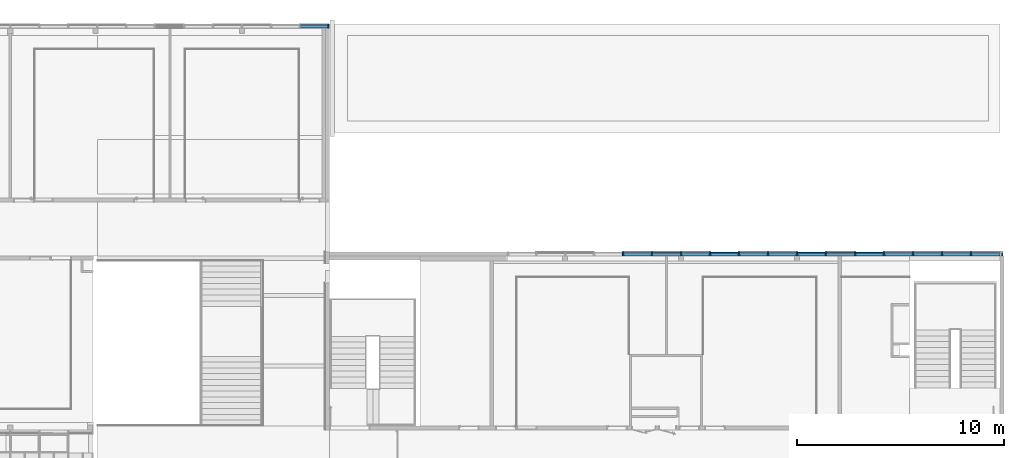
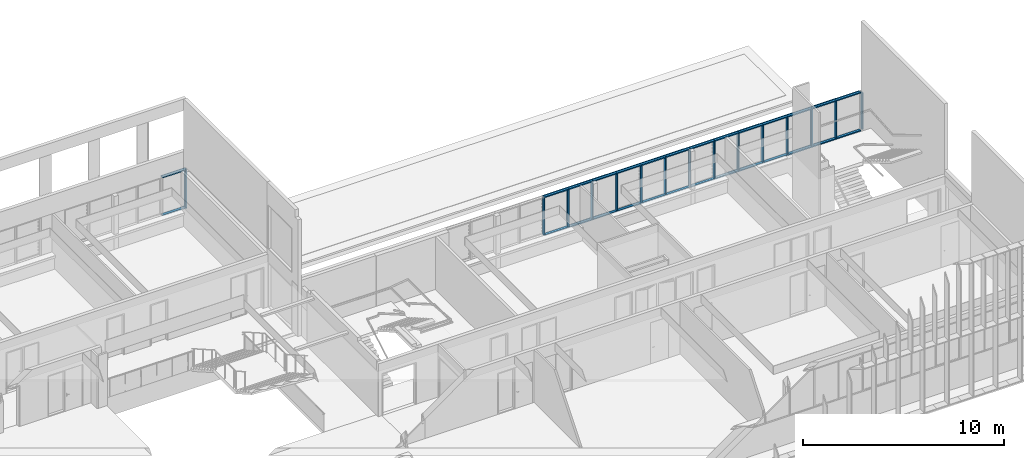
# One storey, part 18 of 106: 43 members, 2 elements without a shape of their own.
"""IFC2X3 building model written with IfcOpenShell, lengths in centimetres."""

from ifc_helpers import new_model, entity, si_unit, converted_unit, derived_unit, direction, frame, origin, place, context, subcontext, project, spatial, polyline, outline, extrude, source, transform, mapped, material, type_object, type_shapes, element, aggregate, save


model = new_model("IFC2X3")

# Units and contexts
model_context = context("Model", 3, precision=0.001, world=origin(), true_north=direction((6.12303176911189e-17, 1.0)))
body_context = subcontext(model_context, "Body", "Model", "MODEL_VIEW")
ifc_project = project(units=[si_unit("LENGTHUNIT", "METRE", prefix="CENTI"), si_unit("AREAUNIT", "SQUARE_METRE"), si_unit("VOLUMEUNIT", "CUBIC_METRE"), converted_unit("PLANEANGLEUNIT", "DEGREE", entity("IfcRatioMeasure", 0.0174532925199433), si_unit("PLANEANGLEUNIT", "RADIAN"), dimensions=[0, 0, 0, 0, 0, 0, 0]), si_unit("MASSUNIT", "GRAM", prefix="KILO"), derived_unit("MASSDENSITYUNIT", [(si_unit("MASSUNIT", "GRAM", prefix="KILO"), 1), (si_unit("LENGTHUNIT", "METRE"), -3)]), si_unit("TIMEUNIT", "SECOND"), si_unit("FREQUENCYUNIT", "HERTZ"), si_unit("THERMODYNAMICTEMPERATUREUNIT", "DEGREE_CELSIUS"), derived_unit("THERMALTRANSMITTANCEUNIT", [(si_unit("MASSUNIT", "GRAM", prefix="KILO"), 1), (si_unit("THERMODYNAMICTEMPERATUREUNIT", "KELVIN"), -1), (si_unit("TIMEUNIT", "SECOND"), -3)]), derived_unit("VOLUMETRICFLOWRATEUNIT", [(si_unit("LENGTHUNIT", "METRE"), 3), (si_unit("TIMEUNIT", "SECOND"), -1)]), si_unit("ELECTRICCURRENTUNIT", "AMPERE"), si_unit("ELECTRICVOLTAGEUNIT", "VOLT"), si_unit("POWERUNIT", "WATT"), si_unit("FORCEUNIT", "NEWTON", prefix="KILO"), si_unit("ILLUMINANCEUNIT", "LUX"), si_unit("LUMINOUSFLUXUNIT", "LUMEN"), si_unit("LUMINOUSINTENSITYUNIT", "CANDELA"), derived_unit("USERDEFINED", [(si_unit("MASSUNIT", "GRAM", prefix="KILO"), -1), (si_unit("LENGTHUNIT", "METRE"), -2), (si_unit("TIMEUNIT", "SECOND"), 3), (si_unit("LUMINOUSFLUXUNIT", "LUMEN"), 1)]), derived_unit("LINEARVELOCITYUNIT", [(si_unit("LENGTHUNIT", "METRE"), 1), (si_unit("TIMEUNIT", "SECOND"), -1)]), si_unit("PRESSUREUNIT", "PASCAL"), derived_unit("USERDEFINED", [(si_unit("LENGTHUNIT", "METRE"), -2), (si_unit("MASSUNIT", "GRAM", prefix="KILO"), 1), (si_unit("TIMEUNIT", "SECOND"), -2)])], contexts=[model_context])

# Site, building, storey
site_placement = place(None, frame((-2781.94577612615, 7442.24238424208, 0.0)))
site = spatial("IfcSite", under=ifc_project, at=site_placement, Name="Default", CompositionType="ELEMENT")
building_placement = place(site_placement, origin())
building = spatial("IfcBuilding", under=site, at=building_placement, CompositionType="ELEMENT")
storey_placement = place(building_placement, frame((0.0, 0.0, 422.0)))
storey = spatial("IfcBuildingStorey", under=building, at=storey_placement, Name="Toiture - Cuisine", CompositionType="ELEMENT", Elevation=421.999999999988)

# Curtain wall, members
curtain_wall_type = type_object("IfcCurtainWallType", Name="Mur-rideau:07 - mur rideau trame 140 cm", PredefinedType="NOTDEFINED")
curtain_wall_1_placement = place(building_placement, origin())
curtain_wall_1 = element("IfcCurtainWall", 1, at=curtain_wall_1_placement, inside=storey, type_object=curtain_wall_type, Name="Mur-rideau:07 - mur rideau trame 140 cm", ObjectType="Mur-rideau:07 - mur rideau trame 140 cm")
ifc_material = material(Name="Aluminium")
member_type_1 = type_object("IfcMemberType", Name="150 x 25mm Détails", PredefinedType="MEMBER")
shared_shape_1 = source(origin(), body_context, "Body", "SweptSolid", [
    extrude(outline(polyline([(-5.6666666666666, -3.24999999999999), (-3.66666666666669, -3.24999999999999), (-3.66666666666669, -0.868749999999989), (-0.166666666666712, -0.868749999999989), (-0.166666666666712, -3.25000000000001), (13.3333333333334, -3.25000000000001), (13.3333333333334, 3.24999999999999), (-0.16666666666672, 3.24999999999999), (-0.16666666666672, 0.868749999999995), (-3.66666666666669, 0.868749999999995), (-3.66666666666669, 3.25), (-5.6666666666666, 3.25), (-5.6666666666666, -3.24999999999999)])), frame((-3.24999999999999, -1.96666666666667, -140.0), z_axis=(0.0, 0.0, 1.0), x_axis=(0.0, -1.0, 0.0)), (0.0, 0.0, 1.0), 140.000000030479),
])
type_shapes(member_type_1, [shared_shape_1])
member_1_placement = place(building_placement, frame((-3789.50004159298, 26.0, 743.0), z_axis=(-1.0, 0.0, 0.0), x_axis=(0.0, 0.0, 1.0)))
member_1 = element("IfcMember", 2, at=member_1_placement, type_object=member_type_1, material=ifc_material, Name="Meneau rectangulaire:150 x 25mm Détails", ObjectType="Meneau rectangulaire:150 x 25mm Détails", context=body_context, shape_type="MappedRepresentation", body=[
    mapped(shared_shape_1, transform((0.0, 0.0, 0.0), scale=1.0)),
])
member_type_2 = type_object("IfcMemberType", Name="150 x 25mm Détails", PredefinedType="MEMBER")
shared_shape_2 = source(origin(), body_context, "Body", "SweptSolid", [
    extrude(outline(polyline([(-5.66666666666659, -3.25), (-3.66666666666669, -3.25), (-3.66666666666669, -0.868749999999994), (-0.166666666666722, -0.868749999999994), (-0.166666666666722, -3.25000000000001), (13.3333333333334, -3.24999999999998), (13.3333333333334, 3.25000000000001), (-0.166666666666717, 3.25000000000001), (-0.166666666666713, 0.868749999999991), (-3.66666666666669, 0.868749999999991), (-3.66666666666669, 3.24999999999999), (-5.66666666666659, 3.24999999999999), (-5.66666666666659, -3.25)])), frame((-3.24999999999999, -1.96666666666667, -140.0), z_axis=(0.0, 0.0, 1.0), x_axis=(0.0, -1.0, 0.0)), (0.0, 0.0, 1.0), 140.000000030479),
])
type_shapes(member_type_2, [shared_shape_2])
member_2_placement = place(building_placement, frame((-3649.5000415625, 26.0, 505.5), z_axis=(1.0, 0.0, 0.0), x_axis=(0.0, 0.0, -1.0)))
member_2 = element("IfcMember", 3, at=member_2_placement, type_object=member_type_2, material=ifc_material, Name="Meneau rectangulaire:150 x 25mm Détails", ObjectType="Meneau rectangulaire:150 x 25mm Détails", context=body_context, shape_type="MappedRepresentation", body=[
    mapped(shared_shape_2, transform((0.0, 0.0, 0.0), scale=1.0)),
])
member_type_3 = type_object("IfcMemberType", Name="150 x 25mm Détails", PredefinedType="MEMBER")
shared_shape_3 = source(origin(), body_context, "Body", "SweptSolid", [
    extrude(outline(polyline([(-5.6666666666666, -3.25), (-3.66666666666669, -3.25), (-3.66666666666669, -0.868749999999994), (-0.166666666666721, -0.868749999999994), (-0.166666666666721, -3.25000000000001), (13.3333333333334, -3.24999999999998), (13.3333333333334, 3.25000000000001), (-0.166666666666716, 3.25000000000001), (-0.166666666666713, 0.868749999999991), (-3.66666666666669, 0.868749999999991), (-3.66666666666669, 3.24999999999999), (-5.6666666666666, 3.24999999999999), (-5.6666666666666, -3.25)])), frame((-3.24999999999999, -1.96666666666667, -224.5), z_axis=(0.0, 0.0, 1.0), x_axis=(0.0, -1.0, 0.0)), (0.0, 0.0, 1.0), 224.5),
])
type_shapes(member_type_3, [shared_shape_3])
member_3_placement = place(building_placement, frame((-3649.5000415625, 26.0, 736.5)))
member_3 = element("IfcMember", 4, at=member_3_placement, type_object=member_type_3, material=ifc_material, Name="Meneau rectangulaire:150 x 25mm Détails", ObjectType="Meneau rectangulaire:150 x 25mm Détails", context=body_context, shape_type="MappedRepresentation", body=[
    mapped(shared_shape_3, transform((0.0, 0.0, 0.0), scale=1.0)),
])
aggregate(curtain_wall_1, [member_1, member_2, member_3])

curtain_wall_2_placement = place(building_placement, origin())
curtain_wall_2 = element("IfcCurtainWall", 5, at=curtain_wall_2_placement, inside=storey, type_object=curtain_wall_type, Name="Mur-rideau:07 - mur rideau trame 140 cm", ObjectType="Mur-rideau:07 - mur rideau trame 140 cm")
member_type_4 = type_object("IfcMemberType", Name="150 x 25mm Détails", PredefinedType="MEMBER")
shared_shape_4 = source(origin(), body_context, "Body", "SweptSolid", [
    extrude(outline(polyline([(-13.3333333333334, -3.25000000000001), (0.166666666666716, -3.25000000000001), (0.166666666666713, -0.86874999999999), (3.66666666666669, -0.86874999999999), (3.66666666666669, -3.24999999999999), (5.66666666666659, -3.24999999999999), (5.66666666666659, 3.25), (3.66666666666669, 3.25), (3.66666666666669, 0.868749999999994), (0.166666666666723, 0.868749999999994), (0.166666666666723, 3.25000000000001), (-13.3333333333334, 3.24999999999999), (-13.3333333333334, -3.25000000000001)])), frame((-3.24999999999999, 1.96666666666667, -140.0), z_axis=(0.0, 0.0, 1.0), x_axis=(0.0, -1.0, 0.0)), (0.0, 0.0, 1.0), 140.0),
])
type_shapes(member_type_4, [shared_shape_4])
member_4_placement = place(building_placement, frame((-2089.29988284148, -1073.7999999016, 743.0), z_axis=(1.0, 0.0, 0.0), x_axis=(0.0, 0.0, 1.0)))
member_4 = element("IfcMember", 6, at=member_4_placement, type_object=member_type_4, material=ifc_material, Name="Meneau rectangulaire:150 x 25mm Détails", ObjectType="Meneau rectangulaire:150 x 25mm Détails", context=body_context, shape_type="MappedRepresentation", body=[
    mapped(shared_shape_4, transform((0.0, 0.0, 0.0), scale=1.0)),
])
member_5_placement = place(building_placement, frame((-1949.29988284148, -1073.7999999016, 743.0), z_axis=(1.0, 0.0, 0.0), x_axis=(0.0, 0.0, 1.0)))
member_5 = element("IfcMember", 7, at=member_5_placement, type_object=member_type_4, material=ifc_material, Name="Meneau rectangulaire:150 x 25mm Détails", ObjectType="Meneau rectangulaire:150 x 25mm Détails", context=body_context, shape_type="MappedRepresentation", body=[
    mapped(shared_shape_4, transform((0.0, 0.0, 0.0), scale=1.0)),
])
member_6_placement = place(building_placement, frame((-1809.29988284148, -1073.7999999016, 743.0), z_axis=(1.0, 0.0, 0.0), x_axis=(0.0, 0.0, 1.0)))
member_6 = element("IfcMember", 8, at=member_6_placement, type_object=member_type_4, material=ifc_material, Name="Meneau rectangulaire:150 x 25mm Détails", ObjectType="Meneau rectangulaire:150 x 25mm Détails", context=body_context, shape_type="MappedRepresentation", body=[
    mapped(shared_shape_4, transform((0.0, 0.0, 0.0), scale=1.0)),
])
member_7_placement = place(building_placement, frame((-1669.29988284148, -1073.7999999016, 743.0), z_axis=(1.0, 0.0, 0.0), x_axis=(0.0, 0.0, 1.0)))
member_7 = element("IfcMember", 9, at=member_7_placement, type_object=member_type_4, material=ifc_material, Name="Meneau rectangulaire:150 x 25mm Détails", ObjectType="Meneau rectangulaire:150 x 25mm Détails", context=body_context, shape_type="MappedRepresentation", body=[
    mapped(shared_shape_4, transform((0.0, 0.0, 0.0), scale=1.0)),
])
member_8_placement = place(building_placement, frame((-1529.29988284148, -1073.7999999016, 743.0), z_axis=(1.0, 0.0, 0.0), x_axis=(0.0, 0.0, 1.0)))
member_8 = element("IfcMember", 10, at=member_8_placement, type_object=member_type_4, material=ifc_material, Name="Meneau rectangulaire:150 x 25mm Détails", ObjectType="Meneau rectangulaire:150 x 25mm Détails", context=body_context, shape_type="MappedRepresentation", body=[
    mapped(shared_shape_4, transform((0.0, 0.0, 0.0), scale=1.0)),
])
member_9_placement = place(building_placement, frame((-1389.29988284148, -1073.7999999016, 743.0), z_axis=(1.0, 0.0, 0.0), x_axis=(0.0, 0.0, 1.0)))
member_9 = element("IfcMember", 11, at=member_9_placement, type_object=member_type_4, material=ifc_material, Name="Meneau rectangulaire:150 x 25mm Détails", ObjectType="Meneau rectangulaire:150 x 25mm Détails", context=body_context, shape_type="MappedRepresentation", body=[
    mapped(shared_shape_4, transform((0.0, 0.0, 0.0), scale=1.0)),
])
member_10_placement = place(building_placement, frame((-1249.29988284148, -1073.7999999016, 743.0), z_axis=(1.0, 0.0, 0.0), x_axis=(0.0, 0.0, 1.0)))
member_10 = element("IfcMember", 12, at=member_10_placement, type_object=member_type_4, material=ifc_material, Name="Meneau rectangulaire:150 x 25mm Détails", ObjectType="Meneau rectangulaire:150 x 25mm Détails", context=body_context, shape_type="MappedRepresentation", body=[
    mapped(shared_shape_4, transform((0.0, 0.0, 0.0), scale=1.0)),
])
member_11_placement = place(building_placement, frame((-1109.29988284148, -1073.7999999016, 743.0), z_axis=(1.0, 0.0, 0.0), x_axis=(0.0, 0.0, 1.0)))
member_11 = element("IfcMember", 13, at=member_11_placement, type_object=member_type_4, material=ifc_material, Name="Meneau rectangulaire:150 x 25mm Détails", ObjectType="Meneau rectangulaire:150 x 25mm Détails", context=body_context, shape_type="MappedRepresentation", body=[
    mapped(shared_shape_4, transform((0.0, 0.0, 0.0), scale=1.0)),
])
member_12_placement = place(building_placement, frame((-969.29988284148, -1073.7999999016, 743.0), z_axis=(1.0, 0.0, 0.0), x_axis=(0.0, 0.0, 1.0)))
member_12 = element("IfcMember", 14, at=member_12_placement, type_object=member_type_4, material=ifc_material, Name="Meneau rectangulaire:150 x 25mm Détails", ObjectType="Meneau rectangulaire:150 x 25mm Détails", context=body_context, shape_type="MappedRepresentation", body=[
    mapped(shared_shape_4, transform((0.0, 0.0, 0.0), scale=1.0)),
])
member_13_placement = place(building_placement, frame((-829.29988284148, -1073.79999990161, 743.0), z_axis=(1.0, 0.0, 0.0), x_axis=(0.0, 0.0, 1.0)))
member_13 = element("IfcMember", 15, at=member_13_placement, type_object=member_type_4, material=ifc_material, Name="Meneau rectangulaire:150 x 25mm Détails", ObjectType="Meneau rectangulaire:150 x 25mm Détails", context=body_context, shape_type="MappedRepresentation", body=[
    mapped(shared_shape_4, transform((0.0, 0.0, 0.0), scale=1.0)),
])
member_14_placement = place(building_placement, frame((-689.29988284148, -1073.79999990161, 743.0), z_axis=(1.0, 0.0, 0.0), x_axis=(0.0, 0.0, 1.0)))
member_14 = element("IfcMember", 16, at=member_14_placement, type_object=member_type_4, material=ifc_material, Name="Meneau rectangulaire:150 x 25mm Détails", ObjectType="Meneau rectangulaire:150 x 25mm Détails", context=body_context, shape_type="MappedRepresentation", body=[
    mapped(shared_shape_4, transform((0.0, 0.0, 0.0), scale=1.0)),
])
member_15_placement = place(building_placement, frame((-549.29988284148, -1073.79999990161, 743.0), z_axis=(1.0, 0.0, 0.0), x_axis=(0.0, 0.0, 1.0)))
member_15 = element("IfcMember", 17, at=member_15_placement, type_object=member_type_4, material=ifc_material, Name="Meneau rectangulaire:150 x 25mm Détails", ObjectType="Meneau rectangulaire:150 x 25mm Détails", context=body_context, shape_type="MappedRepresentation", body=[
    mapped(shared_shape_4, transform((0.0, 0.0, 0.0), scale=1.0)),
])
member_type_5 = type_object("IfcMemberType", Name="150 x 25mm Détails", PredefinedType="MEMBER")
shared_shape_5 = source(origin(), body_context, "Body", "SweptSolid", [
    extrude(outline(polyline([(-13.3333333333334, -3.24999999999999), (0.166666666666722, -3.24999999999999), (0.166666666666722, -0.868749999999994), (3.66666666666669, -0.868749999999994), (3.66666666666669, -3.25), (5.66666666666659, -3.25), (5.66666666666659, 3.24999999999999), (3.66666666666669, 3.24999999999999), (3.66666666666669, 0.86874999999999), (0.166666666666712, 0.86874999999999), (0.166666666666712, 3.25000000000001), (-13.3333333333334, 3.25000000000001), (-13.3333333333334, -3.24999999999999)])), frame((-3.24999999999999, 1.96666666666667, -140.0), z_axis=(0.0, 0.0, 1.0), x_axis=(0.0, -1.0, 0.0)), (0.0, 0.0, 1.0), 140.0),
])
type_shapes(member_type_5, [shared_shape_5])
member_16_placement = place(building_placement, frame((-2229.29988284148, -1073.7999999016, 505.5), z_axis=(-1.0, 0.0, 0.0), x_axis=(0.0, 0.0, -1.0)))
member_16 = element("IfcMember", 18, at=member_16_placement, type_object=member_type_5, material=ifc_material, Name="Meneau rectangulaire:150 x 25mm Détails", ObjectType="Meneau rectangulaire:150 x 25mm Détails", context=body_context, shape_type="MappedRepresentation", body=[
    mapped(shared_shape_5, transform((0.0, 0.0, 0.0), scale=1.0)),
])
member_17_placement = place(building_placement, frame((-2089.29988284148, -1073.7999999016, 505.5), z_axis=(-1.0, 0.0, 0.0), x_axis=(0.0, 0.0, -1.0)))
member_17 = element("IfcMember", 19, at=member_17_placement, type_object=member_type_5, material=ifc_material, Name="Meneau rectangulaire:150 x 25mm Détails", ObjectType="Meneau rectangulaire:150 x 25mm Détails", context=body_context, shape_type="MappedRepresentation", body=[
    mapped(shared_shape_5, transform((0.0, 0.0, 0.0), scale=1.0)),
])
member_18_placement = place(building_placement, frame((-1949.29988284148, -1073.7999999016, 505.5), z_axis=(-1.0, 0.0, 0.0), x_axis=(0.0, 0.0, -1.0)))
member_18 = element("IfcMember", 20, at=member_18_placement, type_object=member_type_5, material=ifc_material, Name="Meneau rectangulaire:150 x 25mm Détails", ObjectType="Meneau rectangulaire:150 x 25mm Détails", context=body_context, shape_type="MappedRepresentation", body=[
    mapped(shared_shape_5, transform((0.0, 0.0, 0.0), scale=1.0)),
])
member_19_placement = place(building_placement, frame((-1809.29988284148, -1073.7999999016, 505.5), z_axis=(-1.0, 0.0, 0.0), x_axis=(0.0, 0.0, -1.0)))
member_19 = element("IfcMember", 21, at=member_19_placement, type_object=member_type_5, material=ifc_material, Name="Meneau rectangulaire:150 x 25mm Détails", ObjectType="Meneau rectangulaire:150 x 25mm Détails", context=body_context, shape_type="MappedRepresentation", body=[
    mapped(shared_shape_5, transform((0.0, 0.0, 0.0), scale=1.0)),
])
member_20_placement = place(building_placement, frame((-1669.29988284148, -1073.7999999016, 505.5), z_axis=(-1.0, 0.0, 0.0), x_axis=(0.0, 0.0, -1.0)))
member_20 = element("IfcMember", 22, at=member_20_placement, type_object=member_type_5, material=ifc_material, Name="Meneau rectangulaire:150 x 25mm Détails", ObjectType="Meneau rectangulaire:150 x 25mm Détails", context=body_context, shape_type="MappedRepresentation", body=[
    mapped(shared_shape_5, transform((0.0, 0.0, 0.0), scale=1.0)),
])
member_21_placement = place(building_placement, frame((-1529.29988284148, -1073.7999999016, 505.5), z_axis=(-1.0, 0.0, 0.0), x_axis=(0.0, 0.0, -1.0)))
member_21 = element("IfcMember", 23, at=member_21_placement, type_object=member_type_5, material=ifc_material, Name="Meneau rectangulaire:150 x 25mm Détails", ObjectType="Meneau rectangulaire:150 x 25mm Détails", context=body_context, shape_type="MappedRepresentation", body=[
    mapped(shared_shape_5, transform((0.0, 0.0, 0.0), scale=1.0)),
])
member_22_placement = place(building_placement, frame((-1389.29988284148, -1073.7999999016, 505.5), z_axis=(-1.0, 0.0, 0.0), x_axis=(0.0, 0.0, -1.0)))
member_22 = element("IfcMember", 24, at=member_22_placement, type_object=member_type_5, material=ifc_material, Name="Meneau rectangulaire:150 x 25mm Détails", ObjectType="Meneau rectangulaire:150 x 25mm Détails", context=body_context, shape_type="MappedRepresentation", body=[
    mapped(shared_shape_5, transform((0.0, 0.0, 0.0), scale=1.0)),
])
member_23_placement = place(building_placement, frame((-1249.29988284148, -1073.7999999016, 505.5), z_axis=(-1.0, 0.0, 0.0), x_axis=(0.0, 0.0, -1.0)))
member_23 = element("IfcMember", 25, at=member_23_placement, type_object=member_type_5, material=ifc_material, Name="Meneau rectangulaire:150 x 25mm Détails", ObjectType="Meneau rectangulaire:150 x 25mm Détails", context=body_context, shape_type="MappedRepresentation", body=[
    mapped(shared_shape_5, transform((0.0, 0.0, 0.0), scale=1.0)),
])
member_24_placement = place(building_placement, frame((-1109.29988284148, -1073.7999999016, 505.5), z_axis=(-1.0, 0.0, 0.0), x_axis=(0.0, 0.0, -1.0)))
member_24 = element("IfcMember", 26, at=member_24_placement, type_object=member_type_5, material=ifc_material, Name="Meneau rectangulaire:150 x 25mm Détails", ObjectType="Meneau rectangulaire:150 x 25mm Détails", context=body_context, shape_type="MappedRepresentation", body=[
    mapped(shared_shape_5, transform((0.0, 0.0, 0.0), scale=1.0)),
])
member_25_placement = place(building_placement, frame((-969.29988284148, -1073.7999999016, 505.5), z_axis=(-1.0, 0.0, 0.0), x_axis=(0.0, 0.0, -1.0)))
member_25 = element("IfcMember", 27, at=member_25_placement, type_object=member_type_5, material=ifc_material, Name="Meneau rectangulaire:150 x 25mm Détails", ObjectType="Meneau rectangulaire:150 x 25mm Détails", context=body_context, shape_type="MappedRepresentation", body=[
    mapped(shared_shape_5, transform((0.0, 0.0, 0.0), scale=1.0)),
])
member_26_placement = place(building_placement, frame((-829.29988284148, -1073.79999990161, 505.5), z_axis=(-1.0, 0.0, 0.0), x_axis=(0.0, 0.0, -1.0)))
member_26 = element("IfcMember", 28, at=member_26_placement, type_object=member_type_5, material=ifc_material, Name="Meneau rectangulaire:150 x 25mm Détails", ObjectType="Meneau rectangulaire:150 x 25mm Détails", context=body_context, shape_type="MappedRepresentation", body=[
    mapped(shared_shape_5, transform((0.0, 0.0, 0.0), scale=1.0)),
])
member_27_placement = place(building_placement, frame((-689.29988284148, -1073.79999990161, 505.5), z_axis=(-1.0, 0.0, 0.0), x_axis=(0.0, 0.0, -1.0)))
member_27 = element("IfcMember", 29, at=member_27_placement, type_object=member_type_5, material=ifc_material, Name="Meneau rectangulaire:150 x 25mm Détails", ObjectType="Meneau rectangulaire:150 x 25mm Détails", context=body_context, shape_type="MappedRepresentation", body=[
    mapped(shared_shape_5, transform((0.0, 0.0, 0.0), scale=1.0)),
])
member_type_6 = type_object("IfcMemberType", Name="150 x 25mm Détails", PredefinedType="MEMBER")
shared_shape_6 = source(origin(), body_context, "Body", "SweptSolid", [
    extrude(outline(polyline([(-13.3333333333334, -3.24999999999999), (0.166666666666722, -3.24999999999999), (0.166666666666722, -0.868749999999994), (3.66666666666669, -0.868749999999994), (3.66666666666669, -3.25), (5.66666666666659, -3.25), (5.66666666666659, 3.24999999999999), (3.66666666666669, 3.24999999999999), (3.66666666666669, 0.86874999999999), (0.166666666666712, 0.86874999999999), (0.166666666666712, 3.25000000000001), (-13.3333333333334, 3.25000000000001), (-13.3333333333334, -3.24999999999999)])), frame((-3.24999999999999, 1.96666666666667, -140.0), z_axis=(0.0, 0.0, 1.0), x_axis=(0.0, -1.0, 0.0)), (0.0, 0.0, 1.0), 140.0),
])
type_shapes(member_type_6, [shared_shape_6])
member_28_placement = place(building_placement, frame((-549.29988284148, -1073.79999990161, 505.5), z_axis=(-1.0, 0.0, 0.0), x_axis=(0.0, 0.0, -1.0)))
member_28 = element("IfcMember", 30, at=member_28_placement, type_object=member_type_6, material=ifc_material, Name="Meneau rectangulaire:150 x 25mm Détails", ObjectType="Meneau rectangulaire:150 x 25mm Détails", context=body_context, shape_type="MappedRepresentation", body=[
    mapped(shared_shape_6, transform((0.0, 0.0, 0.0), scale=1.0)),
])
member_type_7 = type_object("IfcMemberType", Name="150 x 25mm Détails", PredefinedType="MEMBER")
shared_shape_7 = source(origin(), body_context, "Body", "SweptSolid", [
    extrude(outline(polyline([(-13.3333333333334, -3.25000000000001), (0.166666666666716, -3.25000000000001), (0.166666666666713, -0.86874999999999), (3.66666666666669, -0.86874999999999), (3.66666666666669, -3.24999999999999), (5.66666666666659, -3.24999999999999), (5.66666666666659, 3.25), (3.66666666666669, 3.25), (3.66666666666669, 0.868749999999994), (0.166666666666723, 0.868749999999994), (0.166666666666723, 3.25000000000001), (-13.3333333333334, 3.24999999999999), (-13.3333333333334, -3.25000000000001)])), frame((-3.24999999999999, 1.96666666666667, -224.5), z_axis=(0.0, 0.0, 1.0), x_axis=(0.0, -1.0, 0.0)), (0.0, 0.0, 1.0), 224.5),
])
type_shapes(member_type_7, [shared_shape_7])
member_29_placement = place(building_placement, frame((-394.999879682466, -1073.79999990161, 512.0), z_axis=(0.0, 0.0, -1.0), x_axis=(1.0, 0.0, 0.0)))
member_29 = element("IfcMember", 31, at=member_29_placement, type_object=member_type_7, material=ifc_material, Name="Meneau rectangulaire:150 x 25mm Détails", ObjectType="Meneau rectangulaire:150 x 25mm Détails", context=body_context, shape_type="MappedRepresentation", body=[
    mapped(shared_shape_7, transform((0.0, 0.0, 0.0), scale=1.0)),
])
member_type_8 = type_object("IfcMemberType", Name="150 x 25mm Détails", PredefinedType="MEMBER")
shared_shape_8 = source(origin(), body_context, "Body", "SweptSolid", [
    extrude(outline(polyline([(-13.3333333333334, -3.25000000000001), (0.166666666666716, -3.25000000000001), (0.166666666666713, -0.86874999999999), (3.66666666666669, -0.86874999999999), (3.66666666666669, -3.24999999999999), (5.66666666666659, -3.24999999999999), (5.66666666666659, 3.25), (3.66666666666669, 3.25), (3.66666666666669, 0.868749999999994), (0.166666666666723, 0.868749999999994), (0.166666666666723, 3.25000000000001), (-13.3333333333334, 3.24999999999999), (-13.3333333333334, -3.25000000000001)])), frame((0.0, 1.96666666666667, -224.5), z_axis=(0.0, 0.0, 1.0), x_axis=(0.0, -1.0, 0.0)), (0.0, 0.0, 1.0), 224.5),
])
type_shapes(member_type_8, [shared_shape_8])
member_30_placement = place(building_placement, frame((-2229.29988284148, -1073.7999999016, 512.0), z_axis=(0.0, 0.0, -1.0), x_axis=(1.0, 0.0, 0.0)))
member_30 = element("IfcMember", 32, at=member_30_placement, type_object=member_type_8, material=ifc_material, Name="Meneau rectangulaire:150 x 25mm Détails", ObjectType="Meneau rectangulaire:150 x 25mm Détails", context=body_context, shape_type="MappedRepresentation", body=[
    mapped(shared_shape_8, transform((0.0, 0.0, 0.0), scale=1.0)),
])
member_31_placement = place(building_placement, frame((-2089.29988284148, -1073.7999999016, 512.0), z_axis=(0.0, 0.0, -1.0), x_axis=(1.0, 0.0, 0.0)))
member_31 = element("IfcMember", 33, at=member_31_placement, type_object=member_type_8, material=ifc_material, Name="Meneau rectangulaire:150 x 25mm Détails", ObjectType="Meneau rectangulaire:150 x 25mm Détails", context=body_context, shape_type="MappedRepresentation", body=[
    mapped(shared_shape_8, transform((0.0, 0.0, 0.0), scale=1.0)),
])
member_32_placement = place(building_placement, frame((-1949.29988284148, -1073.7999999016, 512.0), z_axis=(0.0, 0.0, -1.0), x_axis=(1.0, 0.0, 0.0)))
member_32 = element("IfcMember", 34, at=member_32_placement, type_object=member_type_8, material=ifc_material, Name="Meneau rectangulaire:150 x 25mm Détails", ObjectType="Meneau rectangulaire:150 x 25mm Détails", context=body_context, shape_type="MappedRepresentation", body=[
    mapped(shared_shape_8, transform((0.0, 0.0, 0.0), scale=1.0)),
])
member_33_placement = place(building_placement, frame((-1809.29988284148, -1073.7999999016, 512.0), z_axis=(0.0, 0.0, -1.0), x_axis=(1.0, 0.0, 0.0)))
member_33 = element("IfcMember", 35, at=member_33_placement, type_object=member_type_8, material=ifc_material, Name="Meneau rectangulaire:150 x 25mm Détails", ObjectType="Meneau rectangulaire:150 x 25mm Détails", context=body_context, shape_type="MappedRepresentation", body=[
    mapped(shared_shape_8, transform((0.0, 0.0, 0.0), scale=1.0)),
])
member_34_placement = place(building_placement, frame((-1669.29988284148, -1073.7999999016, 512.0), z_axis=(0.0, 0.0, -1.0), x_axis=(1.0, 0.0, 0.0)))
member_34 = element("IfcMember", 36, at=member_34_placement, type_object=member_type_8, material=ifc_material, Name="Meneau rectangulaire:150 x 25mm Détails", ObjectType="Meneau rectangulaire:150 x 25mm Détails", context=body_context, shape_type="MappedRepresentation", body=[
    mapped(shared_shape_8, transform((0.0, 0.0, 0.0), scale=1.0)),
])
member_35_placement = place(building_placement, frame((-1529.29988284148, -1073.7999999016, 512.0), z_axis=(0.0, 0.0, -1.0), x_axis=(1.0, 0.0, 0.0)))
member_35 = element("IfcMember", 37, at=member_35_placement, type_object=member_type_8, material=ifc_material, Name="Meneau rectangulaire:150 x 25mm Détails", ObjectType="Meneau rectangulaire:150 x 25mm Détails", context=body_context, shape_type="MappedRepresentation", body=[
    mapped(shared_shape_8, transform((0.0, 0.0, 0.0), scale=1.0)),
])
member_36_placement = place(building_placement, frame((-1389.29988284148, -1073.7999999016, 512.0), z_axis=(0.0, 0.0, -1.0), x_axis=(1.0, 0.0, 0.0)))
member_36 = element("IfcMember", 38, at=member_36_placement, type_object=member_type_8, material=ifc_material, Name="Meneau rectangulaire:150 x 25mm Détails", ObjectType="Meneau rectangulaire:150 x 25mm Détails", context=body_context, shape_type="MappedRepresentation", body=[
    mapped(shared_shape_8, transform((0.0, 0.0, 0.0), scale=1.0)),
])
member_37_placement = place(building_placement, frame((-1249.29988284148, -1073.7999999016, 512.0), z_axis=(0.0, 0.0, -1.0), x_axis=(1.0, 0.0, 0.0)))
member_37 = element("IfcMember", 39, at=member_37_placement, type_object=member_type_8, material=ifc_material, Name="Meneau rectangulaire:150 x 25mm Détails", ObjectType="Meneau rectangulaire:150 x 25mm Détails", context=body_context, shape_type="MappedRepresentation", body=[
    mapped(shared_shape_8, transform((0.0, 0.0, 0.0), scale=1.0)),
])
member_38_placement = place(building_placement, frame((-1109.29988284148, -1073.7999999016, 512.0), z_axis=(0.0, 0.0, -1.0), x_axis=(1.0, 0.0, 0.0)))
member_38 = element("IfcMember", 40, at=member_38_placement, type_object=member_type_8, material=ifc_material, Name="Meneau rectangulaire:150 x 25mm Détails", ObjectType="Meneau rectangulaire:150 x 25mm Détails", context=body_context, shape_type="MappedRepresentation", body=[
    mapped(shared_shape_8, transform((0.0, 0.0, 0.0), scale=1.0)),
])
member_39_placement = place(building_placement, frame((-969.29988284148, -1073.7999999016, 512.0), z_axis=(0.0, 0.0, -1.0), x_axis=(1.0, 0.0, 0.0)))
member_39 = element("IfcMember", 41, at=member_39_placement, type_object=member_type_8, material=ifc_material, Name="Meneau rectangulaire:150 x 25mm Détails", ObjectType="Meneau rectangulaire:150 x 25mm Détails", context=body_context, shape_type="MappedRepresentation", body=[
    mapped(shared_shape_8, transform((0.0, 0.0, 0.0), scale=1.0)),
])
member_40_placement = place(building_placement, frame((-829.29988284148, -1073.79999990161, 512.0), z_axis=(0.0, 0.0, -1.0), x_axis=(1.0, 0.0, 0.0)))
member_40 = element("IfcMember", 42, at=member_40_placement, type_object=member_type_8, material=ifc_material, Name="Meneau rectangulaire:150 x 25mm Détails", ObjectType="Meneau rectangulaire:150 x 25mm Détails", context=body_context, shape_type="MappedRepresentation", body=[
    mapped(shared_shape_8, transform((0.0, 0.0, 0.0), scale=1.0)),
])
member_41_placement = place(building_placement, frame((-689.29988284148, -1073.79999990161, 512.0), z_axis=(0.0, 0.0, -1.0), x_axis=(1.0, 0.0, 0.0)))
member_41 = element("IfcMember", 43, at=member_41_placement, type_object=member_type_8, material=ifc_material, Name="Meneau rectangulaire:150 x 25mm Détails", ObjectType="Meneau rectangulaire:150 x 25mm Détails", context=body_context, shape_type="MappedRepresentation", body=[
    mapped(shared_shape_8, transform((0.0, 0.0, 0.0), scale=1.0)),
])
member_42_placement = place(building_placement, frame((-549.29988284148, -1073.79999990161, 512.0), z_axis=(0.0, 0.0, -1.0), x_axis=(1.0, 0.0, 0.0)))
member_42 = element("IfcMember", 44, at=member_42_placement, type_object=member_type_8, material=ifc_material, Name="Meneau rectangulaire:150 x 25mm Détails", ObjectType="Meneau rectangulaire:150 x 25mm Détails", context=body_context, shape_type="MappedRepresentation", body=[
    mapped(shared_shape_8, transform((0.0, 0.0, 0.0), scale=1.0)),
])
member_type_9 = type_object("IfcMemberType", Name="150 x 25mm Détails", PredefinedType="MEMBER")
shared_shape_9 = source(origin(), body_context, "Body", "SweptSolid", [
    extrude(outline(polyline([(-13.3333333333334, -3.25000000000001), (0.166666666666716, -3.25000000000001), (0.166666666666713, -0.86874999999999), (3.66666666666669, -0.86874999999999), (3.66666666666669, -3.24999999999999), (5.66666666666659, -3.24999999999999), (5.66666666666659, 3.25), (3.66666666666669, 3.25), (3.66666666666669, 0.868749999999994), (0.166666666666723, 0.868749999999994), (0.166666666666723, 3.25000000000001), (-13.3333333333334, 3.24999999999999), (-13.3333333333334, -3.25000000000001)])), frame((-3.24999999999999, 1.96666666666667, -140.0), z_axis=(0.0, 0.0, 1.0), x_axis=(0.0, -1.0, 0.0)), (0.0, 0.0, 1.0), 140.0),
])
type_shapes(member_type_9, [shared_shape_9])
member_43_placement = place(building_placement, frame((-409.299882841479, -1073.79999990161, 743.0), z_axis=(1.0, 0.0, 0.0), x_axis=(0.0, 0.0, 1.0)))
member_43 = element("IfcMember", 45, at=member_43_placement, type_object=member_type_9, material=ifc_material, Name="Meneau rectangulaire:150 x 25mm Détails", ObjectType="Meneau rectangulaire:150 x 25mm Détails", context=body_context, shape_type="MappedRepresentation", body=[
    mapped(shared_shape_9, transform((0.0, 0.0, 0.0), scale=1.0)),
])
aggregate(curtain_wall_2, [member_4, member_5, member_6, member_7, member_8, member_9, member_10, member_11, member_12, member_13, member_14, member_15, member_16, member_17, member_18, member_19, member_20, member_21, member_22, member_23, member_24, member_25, member_26, member_27, member_28, member_29, member_30, member_31, member_32, member_33, member_34, member_35, member_36, member_37, member_38, member_39, member_40, member_41, member_42, member_43])

save(model, "model.ifc")
